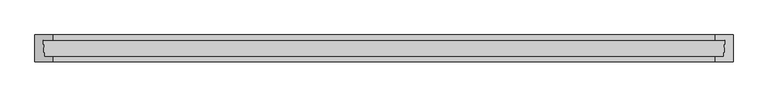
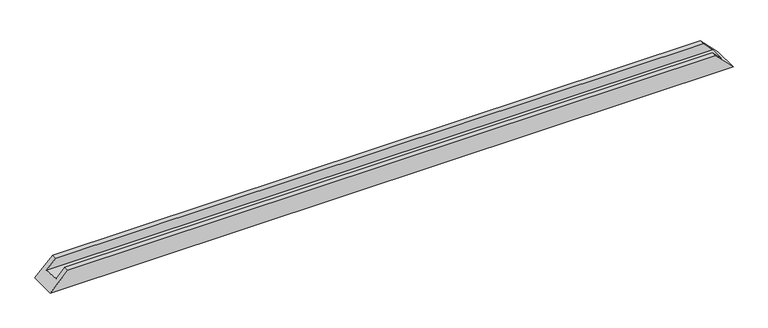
"""IFC4 building model written with IfcOpenShell, lengths in millimetres: proxy geometry, Weiku - Montante - Caixilho duplo 02.2.01.002 : Weiku - Montante - Caixilho duplo 02.2.01.002."""

from ifc_helpers import new_model, si_unit, origin, place, context, project, spatial, faceted_brep, source, transform, mapped, element, save


def generic_models_eccf3f38(model_context):
    return source(origin(), model_context, "Body", "Brep", [
        faceted_brep([(-971.0, 15.0, 26.0), (-945.0, 15.0, 52.0), (945.0, 15.0, 52.0), (971.0, 15.0, 26.0), (-973.2229744, 62.0, 23.7770256), (973.2229744, 62.0, 23.7770256), (-945.0, 62.0, 52.0), (945.0, 62.0, 52.0), (-945.0, 77.0, 52.0), (945.0, 77.0, 52.0), (997.0, 77.0, 0.0), (-997.0, 77.0, 0.0), (997.0, 0.0, 0.0), (-997.0, 0.0, 0.0), (945.0, 0.0, 52.0), (-945.0, 0.0, 52.0)], [[[0, 1, 2, 3]], [[4, 0, 3, 5]], [[6, 4, 5, 7]], [[8, 6, 7, 9]], [[10, 11, 8, 9]], [[11, 10, 12, 13]], [[13, 12, 14, 15]], [[1, 15, 14, 2]], [[1, 0, 4, 6, 8, 11, 13, 15]], [[3, 2, 14, 12, 10, 9, 7, 5]]]),
    ])


if __name__ == "__main__":
    model = new_model("IFC4")
    model_context = context("Model", 3, world=origin())
    ifc_project = project(units=[si_unit("LENGTHUNIT", "METRE", prefix="MILLI")], contexts=[model_context])
    site = spatial("IfcSite", under=ifc_project)
    building = spatial("IfcBuilding", under=site)
    placement = place(None, origin())
    generic_models_shape = generic_models_eccf3f38(model_context)
    element("IfcBuildingElementProxy", 1, Name="Weiku - Montante - Caixilho duplo 02.2.01.002 : Weiku - Montante - Caixilho duplo 02.2.01.002", ObjectType="Weiku - Montante - Caixilho duplo 02.2.01.002 : Weiku - Montante - Caixilho duplo 02.2.01.002", at=placement, inside=building, context=model_context, shape_type="MappedRepresentation", body=[
        mapped(generic_models_shape, transform((0.0, 0.0, 0.0), x_axis=(1.0, 0.0, 0.0), y_axis=(0.0, 1.0, 0.0), z_axis=(0.0, 0.0, 1.0))),
    ])
    save(model, "model.ifc")
